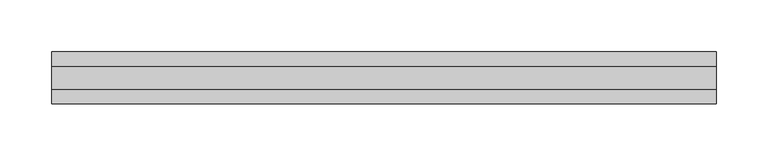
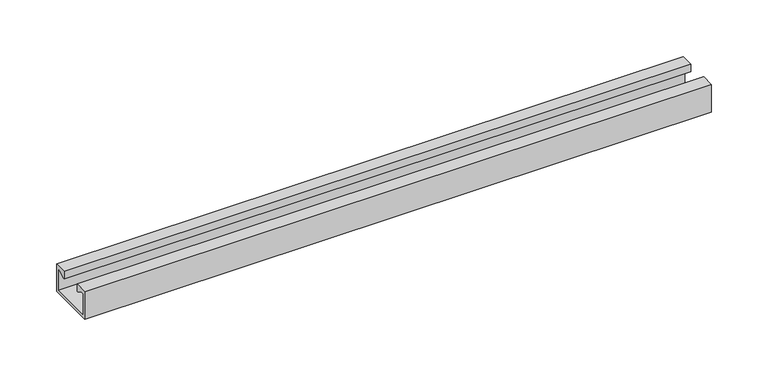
"""IFC4 building model written with IfcOpenShell, lengths in millimetres: fastener geometry, JM W JORDAHL® Mounting Channels : JM W50/30 - L."""

from ifc_helpers import new_model, si_unit, frame, origin, place, context, project, spatial, polyline, outline, extrude, source, transform, mapped, element, save


def fastener_9e6933e1(model_context):
    return source(origin(), model_context, "Body", "SweptSolid", [
        extrude(outline(polyline([(-11.25, 30.0), (-11.25, 22.1), (-12.25, 22.1), (-19.0049981, 26.0), (-22.2, 26.0), (-22.2, 2.8), (22.2, 2.8), (22.2, 26.0), (19.0049981, 26.0), (12.25, 22.1), (11.25, 22.1), (11.25, 30.0), (25.0, 30.0), (25.0, 0.0), (-25.0, 0.0), (-25.0, 30.0), (-11.25, 30.0)])), frame((0.0, 0.0, 0.0), z_axis=(1.0, 0.0, 0.0), x_axis=(0.0, 1.0, 0.0)), (0.0, 0.0, 1.0), 640.0),
    ])


if __name__ == "__main__":
    model = new_model("IFC4")
    model_context = context("Model", 3, world=origin())
    ifc_project = project(units=[si_unit("LENGTHUNIT", "METRE", prefix="MILLI")], contexts=[model_context])
    site = spatial("IfcSite", under=ifc_project)
    building = spatial("IfcBuilding", under=site)
    placement = place(None, origin())
    fastener_shape = fastener_9e6933e1(model_context)
    element("IfcFastener", 1, ObjectType="JM W JORDAHL® Mounting Channels : JM W50/30 - L", at=placement, inside=building, context=model_context, shape_type="MappedRepresentation", body=[
        mapped(fastener_shape, transform((0.0, 0.0, 0.0), x_axis=(1.0, 0.0, 0.0), y_axis=(0.0, 1.0, 0.0), z_axis=(0.0, 0.0, 1.0))),
    ])
    save(model, "model.ifc")
